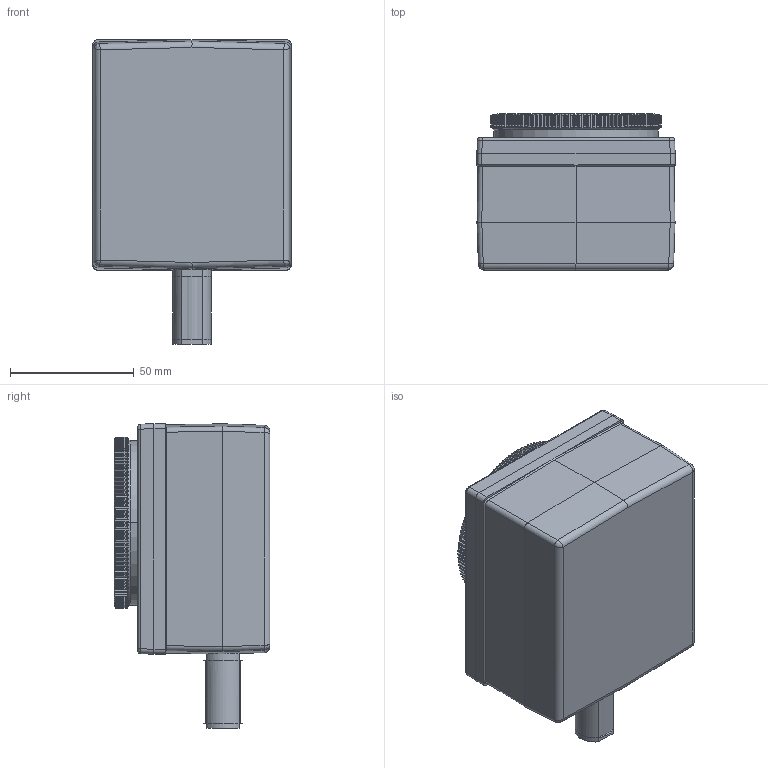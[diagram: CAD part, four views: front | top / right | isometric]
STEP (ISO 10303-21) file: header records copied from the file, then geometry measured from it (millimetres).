
FILE_DESCRIPTION((''),'2;1');
FILE_NAME('15010788Z_DMEC_IPBOX_SW','2016-10-12T',('Emanuel.Wild'),(''),'PRO/ENGINEER BY PARAMETRIC TECHNOLOGY CORPORATION, 2015200','PRO/ENGINEER BY PARAMETRIC TECHNOLOGY CORPORATION, 2015200','');
FILE_SCHEMA(('AUTOMOTIVE_DESIGN { 1 0 10303 214 1 1 1 1 }'));
Length unit declared in the file: millimetre
Products named in the file (1): 15010788Z_DMEC_IPBOX_SW
Bounding box: 80 x 62.93 x 122.9 mm (x, y, z)
Volume: 404923.1 mm3; surface area: 44477.1 mm2
Topology: 31 solids, 32 shells, 819 faces, 2198 edges, 1448 vertices
Faces by surface type: plane 498, cylinder 212, sphere 86, bspline 12, cone 9, torus 2
Entity records: 42671 total; most frequent: CARTESIAN_POINT 8685, ORIENTED_EDGE 4392, DIRECTION 3599, PRESENTATION_STYLE_ASSIGNMENT 3042, STYLED_ITEM 2234, CURVE_STYLE 2198, EDGE_CURVE 2198, VERTEX_POINT 1448
